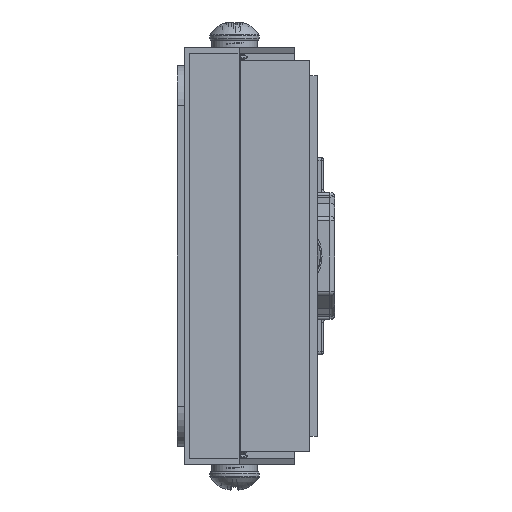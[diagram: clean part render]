
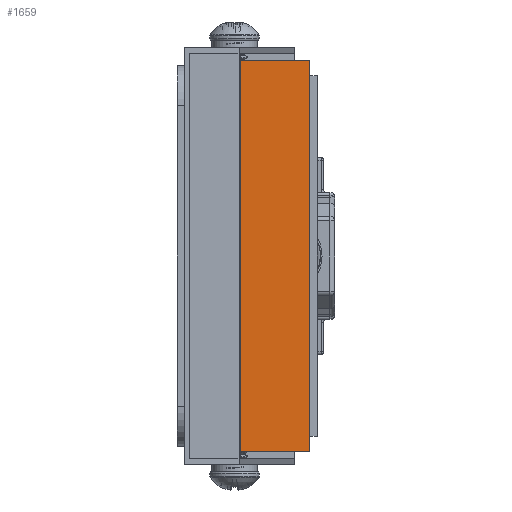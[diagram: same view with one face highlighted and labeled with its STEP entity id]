
A CAD part, left-side view. The second image highlights one B-rep face of the part: STEP entity #1659.
In plain terms, the highlighted planar face has unit normal (-1, 0, 0).
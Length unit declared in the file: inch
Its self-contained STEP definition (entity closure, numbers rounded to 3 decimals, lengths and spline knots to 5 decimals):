
#1517=CARTESIAN_POINT('',(-2.406,0.20069,1.219));
#1518=VERTEX_POINT('',#1517);
#1535=CARTESIAN_POINT('',(-2.406,0.20069,-1.219));
#1536=VERTEX_POINT('',#1535);
#1543=CARTESIAN_POINT('',(-2.406,0.20069,-1.219));
#1544=DIRECTION('',(0.0,0.0,1.0));
#1545=VECTOR('',#1544,2.438);
#1546=LINE('',#1543,#1545);
#1547=EDGE_CURVE('',#1536,#1518,#1546,.T.);
#1557=CARTESIAN_POINT('',(-2.406,-0.46924,-1.219));
#1558=VERTEX_POINT('',#1557);
#1567=CARTESIAN_POINT('',(-2.406,0.20069,-1.219));
#1568=DIRECTION('',(0.0,-1.0,0.0));
#1569=VECTOR('',#1568,0.66993);
#1570=LINE('',#1567,#1569);
#1571=EDGE_CURVE('',#1536,#1558,#1570,.T.);
#1618=CARTESIAN_POINT('',(-2.406,-0.46924,1.219));
#1619=VERTEX_POINT('',#1618);
#1626=CARTESIAN_POINT('',(-2.406,-0.46924,-1.219));
#1627=DIRECTION('',(0.0,0.0,1.0));
#1628=VECTOR('',#1627,2.438);
#1629=LINE('',#1626,#1628);
#1630=EDGE_CURVE('',#1558,#1619,#1629,.T.);
#1643=CARTESIAN_POINT('',(-2.406,-0.46924,0.0));
#1644=DIRECTION('',(-1.0,0.0,0.0));
#1645=DIRECTION('',(0.0,0.0,1.0));
#1646=AXIS2_PLACEMENT_3D('',#1643,#1644,#1645);
#1647=PLANE('',#1646);
#1648=CARTESIAN_POINT('',(-2.406,-0.46924,1.219));
#1649=DIRECTION('',(0.0,1.0,0.0));
#1650=VECTOR('',#1649,0.66993);
#1651=LINE('',#1648,#1650);
#1652=EDGE_CURVE('',#1619,#1518,#1651,.T.);
#1653=ORIENTED_EDGE('',*,*,#1652,.T.);
#1654=ORIENTED_EDGE('',*,*,#1547,.F.);
#1655=ORIENTED_EDGE('',*,*,#1571,.T.);
#1656=ORIENTED_EDGE('',*,*,#1630,.T.);
#1657=EDGE_LOOP('',(#1653,#1654,#1655,#1656));
#1658=FACE_OUTER_BOUND('',#1657,.T.);
#1659=ADVANCED_FACE('',(#1658),#1647,.T.);
